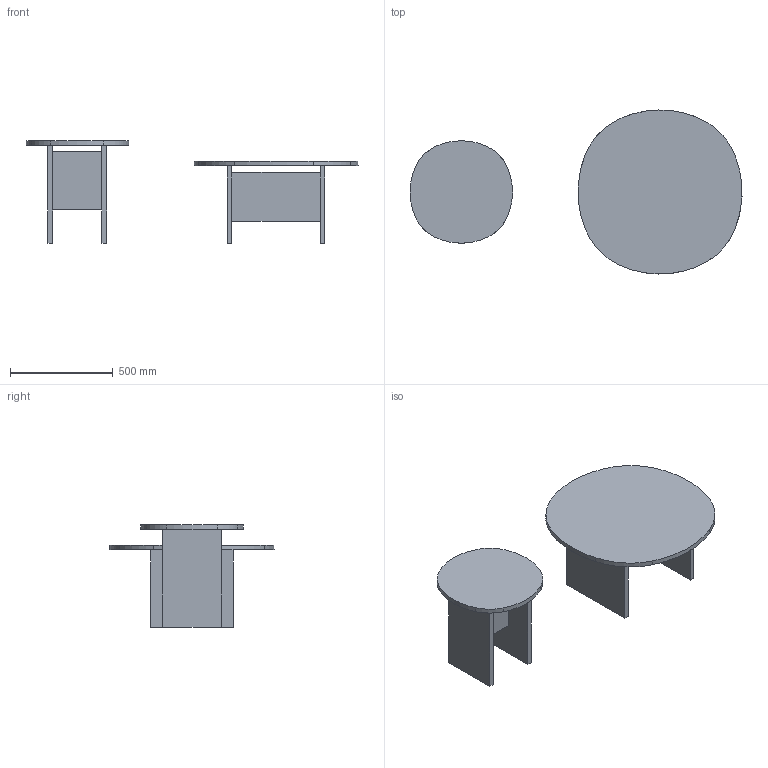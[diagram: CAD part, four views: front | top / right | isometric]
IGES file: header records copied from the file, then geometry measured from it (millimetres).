
Global section: file name: Z:\3D_LQ\2024-2025\tavolino-Ceriani\x-web\3D_GLISS-coffee-table.igs; native system: Rhinoceros ( Aug 11 2021 ); preprocessor: Trout Lake IGES 012 Aug 11 2021; date: 250404.155344; units: millimetre
Bounding box: 1618.74 x 799.93 x 500 mm (x, y, z)
Surface area: 3216401.3 mm2 (no closed solid volume)
Topology: 0 solids, 0 shells, 56 faces, 240 edges, 240 vertices
Faces by surface type: bspline 56
